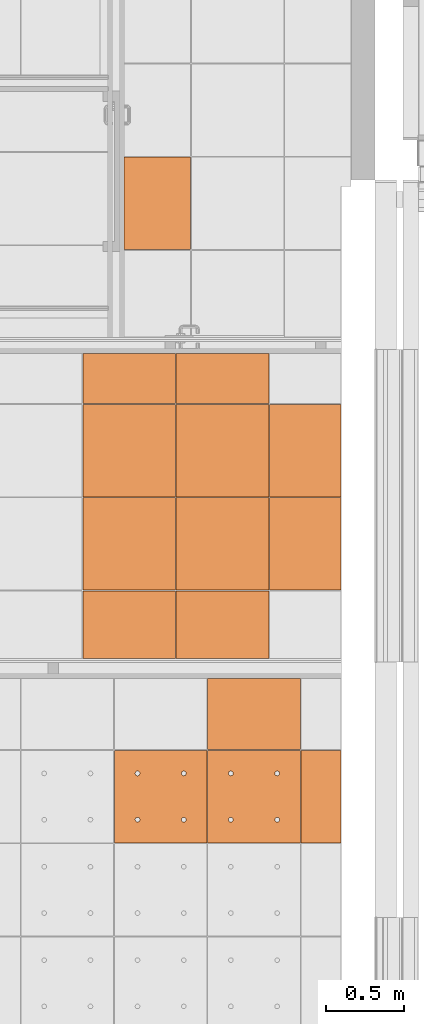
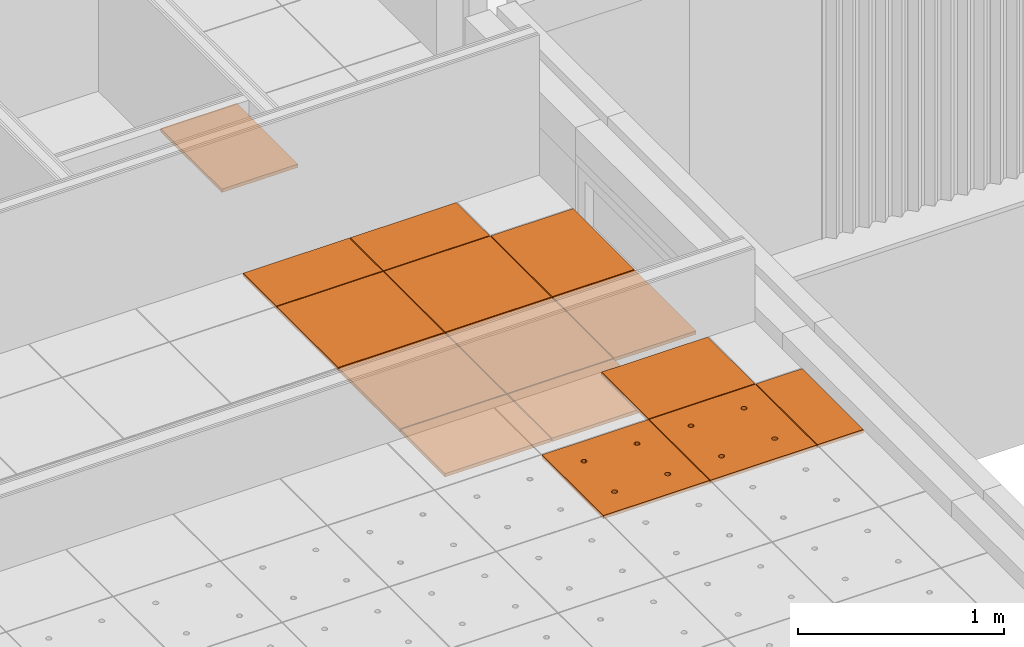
# One storey, part 295 of 338: 15 proxies, 3 elements without a shape of their own.
"""IFC2X3 building model written with IfcOpenShell, lengths in millimetres."""

from ifc_helpers import new_model, entity, si_unit, converted_unit, derived_unit, money_unit, direction, frame, origin_with_axes, place, context, subcontext, project, spatial, faceted_brep, source, transform, mapped, material, type_object, type_shapes, element, aggregate, save


model = new_model("IFC2X3")

# Units and contexts
model_context = context("Model", 3, precision=0.01, world=origin_with_axes(), true_north=direction((0.0, 1.0)))
plan_context = context("Plan", 3, precision=0.01, world=origin_with_axes(), true_north=direction((0.0, 1.0)))
body_context = subcontext(model_context, "Body", "Model", "MODEL_VIEW")
ifc_project = project(units=[si_unit("LENGTHUNIT", "METRE", prefix="MILLI"), si_unit("AREAUNIT", "SQUARE_METRE"), si_unit("VOLUMEUNIT", "CUBIC_METRE"), converted_unit("PLANEANGLEUNIT", "DEGREE", entity("IfcPlaneAngleMeasure", 0.0174532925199), si_unit("PLANEANGLEUNIT", "RADIAN"), dimensions=[0, 0, 0, 0, 0, 0, 0]), money_unit("EUR"), converted_unit("TIMEUNIT", "Year", entity("IfcTimeMeasure", 31556926.0), si_unit("TIMEUNIT", "SECOND"), dimensions=[0, 0, 1, 0, 0, 0, 0]), si_unit("MASSUNIT", "GRAM", prefix="KILO"), si_unit("THERMODYNAMICTEMPERATUREUNIT", "DEGREE_CELSIUS"), si_unit("LUMINOUSINTENSITYUNIT", "LUMEN"), si_unit("ENERGYUNIT", "JOULE", prefix="MEGA"), derived_unit("THERMALCONDUCTANCEUNIT", [(si_unit("POWERUNIT", "WATT"), 1), (si_unit("LENGTHUNIT", "METRE"), -1), (si_unit("THERMODYNAMICTEMPERATUREUNIT", "KELVIN"), -1)]), derived_unit("SPECIFICHEATCAPACITYUNIT", [(si_unit("ENERGYUNIT", "JOULE"), 1), (si_unit("MASSUNIT", "GRAM", prefix="KILO"), -1), (si_unit("THERMODYNAMICTEMPERATUREUNIT", "KELVIN"), -1)]), derived_unit("MASSDENSITYUNIT", [(si_unit("MASSUNIT", "GRAM", prefix="KILO"), 1), (si_unit("VOLUMEUNIT", "CUBIC_METRE"), -1)])], contexts=[model_context, plan_context])

# Site, building, storey
site_placement = place(None, origin_with_axes())
site = spatial("IfcSite", under=ifc_project, at=site_placement, Name="Fortuinstraat Woensdrecht", CompositionType="ELEMENT")
building_placement = place(site_placement, origin_with_axes())
building = spatial("IfcBuilding", under=site, at=building_placement, Name="IKC Fortuna", CompositionType="ELEMENT")
storey_placement = place(building_placement, origin_with_axes())
storey = spatial("IfcBuildingStorey", under=building, at=storey_placement, Name="00 begane grond", CompositionType="ELEMENT", Elevation=0.0)

# Covering, proxies
covering_type = type_object("IfcCoveringType", Name="Curtain Wall Type", PredefinedType="CEILING")
covering_1_placement = place(storey_placement, frame((30854.3216019, 19636.030534, 2810.0), z_axis=(0.0, 0.0, 1.0), x_axis=(1.0, 0.0, 0.0)))
covering_1 = element("IfcCovering", 1, at=covering_1_placement, inside=storey, type_object=covering_type, Name="45_Plafondafwerking_P02 gec", PredefinedType="CEILING")
ifc_material = material(Name="Gipsplaat")
building_element_proxy_type_1 = type_object("IfcBuildingElementProxyType", Name="Distinct Panel 600 x 600 x 20", PredefinedType="NOTDEFINED")
shared_shape_1 = source(origin_with_axes(), body_context, "Body", "Brep", [
    faceted_brep([(-2.49999999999, 2.5, -10.0), (-2.49999999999, 2.5, 10.0), (-597.5, 2.49999999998, 10.0), (-597.5, 2.49999999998, -10.0), (-2.50000000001, 597.5, -10.0), (-2.50000000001, 597.5, 10.0), (-597.5, 597.5, 10.0), (-597.5, 597.5, -10.0)], [[[0, 1, 2, 3]], [[4, 5, 1, 0]], [[1, 5, 6, 2]], [[3, 2, 6, 7]], [[0, 3, 7, 4]], [[7, 6, 5, 4]]]),
])
proxy_1_placement = place(covering_1_placement, frame((3000.0, -1063.7661008, 1.38111744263e-10), z_axis=(0.0, 0.0, 1.0), x_axis=(1.0, 0.0, 0.0)))
proxy_1 = element("IfcBuildingElementProxy", 2, at=proxy_1_placement, type_object=building_element_proxy_type_1, material=ifc_material, Name="__Panel-D", context=body_context, shape_type="MappedRepresentation", body=[
    mapped(shared_shape_1, transform((-300.0, 300.0, 0.0), x_axis=(-1.0, 0.0, 0.0), y_axis=(0.0, -1.0, 0.0), z_axis=(0.0, 0.0, 1.0))),
])
proxy_2_placement = place(covering_1_placement, frame((2400.0, -463.766100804, 1.1857181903e-10), z_axis=(0.0, 0.0, 1.0), x_axis=(1.0, 0.0, 0.0)))
proxy_2 = element("IfcBuildingElementProxy", 3, at=proxy_2_placement, type_object=building_element_proxy_type_1, material=ifc_material, Name="__Panel-D", context=body_context, shape_type="MappedRepresentation", body=[
    mapped(shared_shape_1, transform((-300.0, 300.0, 0.0), x_axis=(-1.0, 0.0, 0.0), y_axis=(0.0, -1.0, 0.0), z_axis=(0.0, 0.0, 1.0))),
])
proxy_3_placement = place(covering_1_placement, frame((3000.0, -463.766100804, 1.38111744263e-10), z_axis=(0.0, 0.0, 1.0), x_axis=(1.0, 0.0, 0.0)))
proxy_3 = element("IfcBuildingElementProxy", 4, at=proxy_3_placement, type_object=building_element_proxy_type_1, material=ifc_material, Name="__Panel-D", context=body_context, shape_type="MappedRepresentation", body=[
    mapped(shared_shape_1, transform((-300.0, 300.0, 0.0), x_axis=(-1.0, 0.0, 0.0), y_axis=(0.0, -1.0, 0.0), z_axis=(0.0, 0.0, 1.0))),
])
shared_shape_2 = source(origin_with_axes(), body_context, "Body", "Brep", [
    faceted_brep([(-2.5000069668, 2.4999963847, -10.0), (-2.5000069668, 2.4999963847, 10.0), (-597.499995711, 2.50000275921, 10.0), (-597.499995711, 2.50000275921, -10.0), (-2.50000214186, 597.499967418, -10.0), (-2.50000214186, 597.499967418, 10.0), (-597.499990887, 597.499973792, 10.0), (-597.499990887, 597.499973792, -10.0)], [[[0, 1, 2, 3]], [[4, 5, 1, 0]], [[1, 5, 6, 2]], [[3, 2, 6, 7]], [[0, 3, 7, 4]], [[7, 6, 5, 4]]]),
])
type_shapes(building_element_proxy_type_1, [shared_shape_1, shared_shape_2])
proxy_4_placement = place(covering_1_placement, frame((2400.0, -1063.7661008, 1.1857181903e-10), z_axis=(0.0, 0.0, 1.0), x_axis=(1.0, 0.0, 0.0)))
proxy_4 = element("IfcBuildingElementProxy", 5, at=proxy_4_placement, type_object=building_element_proxy_type_1, material=ifc_material, Name="__Panel-D", context=body_context, shape_type="MappedRepresentation", body=[
    mapped(shared_shape_2, transform((-300.0, 300.0, 0.0), x_axis=(-1.0, 0.0, 0.0), y_axis=(0.0, -1.0, 0.0), z_axis=(0.0, 0.0, 1.0))),
])

covering_2_placement = place(storey_placement, frame((31656.9226967, 15748.5304598, 3210.0), z_axis=(0.0, 0.0, 1.0), x_axis=(1.0, 0.0, 0.0)))
covering_2 = element("IfcCovering", 6, at=covering_2_placement, inside=storey, type_object=covering_type, Name="45_Plafondafwerking_P01", PredefinedType="CEILING")
building_element_proxy_type_2 = type_object("IfcBuildingElementProxyType", Name="Main Panel 600 x 600 x 20", PredefinedType="NOTDEFINED")
shared_shape_3 = source(origin_with_axes(), body_context, "Body", "Brep", [
    faceted_brep([(2.49999999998, 2.49999999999, -10.0), (300.0, 2.49999999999, -10.0), (300.0, 2.49999999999, 10.0), (2.49999999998, 2.49999999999, 10.0), (2.49999999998, 300.0, -10.0), (2.49999999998, 597.5, -10.0), (300.0, 597.5, -10.0), (597.5, 597.5, -10.0), (597.5, 300.0, -10.0), (597.5, 2.49999999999, -10.0), (166.25, 450.06232995, -10.0), (165.79423259, 452.64711538, -10.0), (164.896546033, 455.11348892, -10.0), (163.58421608, 457.38651108, -10.0), (161.897117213, 459.39711721, -10.0), (159.886511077, 461.08421608, -10.0), (157.613488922, 462.39654603, -10.0), (155.147115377, 463.29423259, -10.0), (152.562329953, 463.75, -10.0), (149.937670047, 463.75, -10.0), (147.352884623, 463.29423259, -10.0), (144.886511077, 462.39654603, -10.0), (142.613488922, 461.08421608, -10.0), (140.602882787, 459.39711721, -10.0), (138.91578392, 457.38651108, -10.0), (137.603453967, 455.11348892, -10.0), (136.705767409, 452.64711538, -10.0), (136.25, 450.06232995, -10.0), (136.25, 448.75, -10.0), (136.25, 447.43767005, -10.0), (136.705767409, 444.85288462, -10.0), (137.603453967, 442.38651108, -10.0), (138.91578392, 440.11348892, -10.0), (140.602882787, 438.10288279, -10.0), (142.613488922, 436.41578392, -10.0), (144.886511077, 435.10345397, -10.0), (147.352884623, 434.20576741, -10.0), (149.937670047, 433.75, -10.0), (152.562329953, 433.75, -10.0), (155.147115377, 434.20576741, -10.0), (157.613488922, 435.10345397, -10.0), (159.886511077, 436.41578392, -10.0), (161.897117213, 438.10288279, -10.0), (163.58421608, 440.11348892, -10.0), (164.896546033, 442.38651108, -10.0), (165.79423259, 444.85288462, -10.0), (166.25, 447.43767005, -10.0), (463.75, 450.06232995, -10.0), (463.29423259, 452.64711538, -10.0), (462.396546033, 455.11348892, -10.0), (461.08421608, 457.38651108, -10.0), (459.397117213, 459.39711721, -10.0), (457.386511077, 461.08421608, -10.0), (455.113488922, 462.39654603, -10.0), (452.647115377, 463.29423259, -10.0), (450.062329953, 463.75, -10.0), (447.437670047, 463.75, -10.0), (444.852884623, 463.29423259, -10.0), (442.386511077, 462.39654603, -10.0), (440.113488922, 461.08421608, -10.0), (438.102882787, 459.39711721, -10.0), (436.41578392, 457.38651108, -10.0), (435.103453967, 455.11348892, -10.0), (434.205767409, 452.64711538, -10.0), (433.75, 450.06232995, -10.0), (433.75, 448.75, -10.0), (433.75, 447.43767005, -10.0), (434.205767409, 444.85288462, -10.0), (435.103453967, 442.38651108, -10.0), (436.41578392, 440.11348892, -10.0), (438.102882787, 438.10288279, -10.0), (440.113488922, 436.41578392, -10.0), (442.386511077, 435.10345397, -10.0), (444.852884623, 434.20576741, -10.0), (447.437670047, 433.75, -10.0), (450.062329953, 433.75, -10.0), (452.647115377, 434.20576741, -10.0), (455.113488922, 435.10345397, -10.0), (457.386511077, 436.41578392, -10.0), (459.397117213, 438.10288279, -10.0), (461.08421608, 440.11348892, -10.0), (462.396546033, 442.38651108, -10.0), (463.29423259, 444.85288462, -10.0), (463.75, 447.43767005, -10.0), (463.75, 152.56232995, -10.0), (463.29423259, 155.14711538, -10.0), (462.396546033, 157.61348892, -10.0), (461.08421608, 159.88651108, -10.0), (459.397117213, 161.89711721, -10.0), (457.386511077, 163.58421608, -10.0), (455.113488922, 164.89654603, -10.0), (452.647115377, 165.79423259, -10.0), (450.062329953, 166.25, -10.0), (447.437670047, 166.25, -10.0), (444.852884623, 165.79423259, -10.0), (442.386511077, 164.89654603, -10.0), (440.113488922, 163.58421608, -10.0), (438.102882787, 161.89711721, -10.0), (436.41578392, 159.88651108, -10.0), (435.103453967, 157.61348892, -10.0), (434.205767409, 155.14711538, -10.0), (433.75, 152.56232995, -10.0), (433.75, 151.25, -10.0), (433.75, 149.93767005, -10.0), (434.205767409, 147.35288462, -10.0), (435.103453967, 144.88651108, -10.0), (436.41578392, 142.61348892, -10.0), (438.102882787, 140.60288279, -10.0), (440.113488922, 138.91578392, -10.0), (442.386511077, 137.60345397, -10.0), (444.852884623, 136.70576741, -10.0), (447.437670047, 136.25, -10.0), (450.062329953, 136.25, -10.0), (452.647115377, 136.70576741, -10.0), (455.113488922, 137.60345397, -10.0), (457.386511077, 138.91578392, -10.0), (459.397117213, 140.60288279, -10.0), (461.08421608, 142.61348892, -10.0), (462.396546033, 144.88651108, -10.0), (463.29423259, 147.35288462, -10.0), (463.75, 149.93767005, -10.0), (166.25, 152.56232995, -10.0), (165.79423259, 155.14711538, -10.0), (164.896546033, 157.61348892, -10.0), (163.58421608, 159.88651108, -10.0), (161.897117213, 161.89711721, -10.0), (159.886511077, 163.58421608, -10.0), (157.613488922, 164.89654603, -10.0), (155.147115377, 165.79423259, -10.0), (152.562329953, 166.25, -10.0), (149.937670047, 166.25, -10.0), (147.352884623, 165.79423259, -10.0), (144.886511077, 164.89654603, -10.0), (142.613488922, 163.58421608, -10.0), (140.602882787, 161.89711721, -10.0), (138.91578392, 159.88651108, -10.0), (137.603453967, 157.61348892, -10.0), (136.705767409, 155.14711538, -10.0), (136.25, 152.56232995, -10.0), (136.25, 151.25, -10.0), (136.25, 149.93767005, -10.0), (136.705767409, 147.35288462, -10.0), (137.603453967, 144.88651108, -10.0), (138.91578392, 142.61348892, -10.0), (140.602882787, 140.60288279, -10.0), (142.613488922, 138.91578392, -10.0), (144.886511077, 137.60345397, -10.0), (147.352884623, 136.70576741, -10.0), (149.937670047, 136.25, -10.0), (152.562329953, 136.25, -10.0), (155.147115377, 136.70576741, -10.0), (157.613488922, 137.60345397, -10.0), (159.886511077, 138.91578392, -10.0), (161.897117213, 140.60288279, -10.0), (163.58421608, 142.61348892, -10.0), (164.896546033, 144.88651108, -10.0), (165.79423259, 147.35288462, -10.0), (166.25, 149.93767005, -10.0), (597.5, 2.49999999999, 10.0), (597.5, 300.0, 10.0), (597.5, 597.5, 10.0), (300.0, 597.5, 10.0), (2.49999999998, 597.5, 10.0), (2.49999999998, 300.0, 10.0), (166.25, 450.06232995, 10.0), (166.25, 447.43767005, 10.0), (165.79423259, 444.85288462, 10.0), (164.896546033, 442.38651108, 10.0), (163.58421608, 440.11348892, 10.0), (161.897117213, 438.10288279, 10.0), (159.886511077, 436.41578392, 10.0), (157.613488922, 435.10345397, 10.0), (155.147115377, 434.20576741, 10.0), (152.562329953, 433.75, 10.0), (149.937670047, 433.75, 10.0), (147.352884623, 434.20576741, 10.0), (144.886511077, 435.10345397, 10.0), (142.613488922, 436.41578392, 10.0), (140.602882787, 438.10288279, 10.0), (138.91578392, 440.11348892, 10.0), (137.603453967, 442.38651108, 10.0), (136.705767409, 444.85288462, 10.0), (136.25, 447.43767005, 10.0), (136.25, 448.75, 10.0), (136.25, 450.06232995, 10.0), (136.705767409, 452.64711538, 10.0), (137.603453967, 455.11348892, 10.0), (138.91578392, 457.38651108, 10.0), (140.602882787, 459.39711721, 10.0), (142.613488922, 461.08421608, 10.0), (144.886511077, 462.39654603, 10.0), (147.352884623, 463.29423259, 10.0), (149.937670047, 463.75, 10.0), (152.562329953, 463.75, 10.0), (155.147115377, 463.29423259, 10.0), (157.613488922, 462.39654603, 10.0), (159.886511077, 461.08421608, 10.0), (161.897117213, 459.39711721, 10.0), (163.58421608, 457.38651108, 10.0), (164.896546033, 455.11348892, 10.0), (165.79423259, 452.64711538, 10.0), (463.75, 450.06232995, 10.0), (463.75, 447.43767005, 10.0), (463.29423259, 444.85288462, 10.0), (462.396546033, 442.38651108, 10.0), (461.08421608, 440.11348892, 10.0), (459.397117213, 438.10288279, 10.0), (457.386511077, 436.41578392, 10.0), (455.113488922, 435.10345397, 10.0), (452.647115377, 434.20576741, 10.0), (450.062329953, 433.75, 10.0), (447.437670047, 433.75, 10.0), (444.852884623, 434.20576741, 10.0), (442.386511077, 435.10345397, 10.0), (440.113488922, 436.41578392, 10.0), (438.102882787, 438.10288279, 10.0), (436.41578392, 440.11348892, 10.0), (435.103453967, 442.38651108, 10.0), (434.205767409, 444.85288462, 10.0), (433.75, 447.43767005, 10.0), (433.75, 448.75, 10.0), (433.75, 450.06232995, 10.0), (434.205767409, 452.64711538, 10.0), (435.103453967, 455.11348892, 10.0), (436.41578392, 457.38651108, 10.0), (438.102882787, 459.39711721, 10.0), (440.113488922, 461.08421608, 10.0), (442.386511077, 462.39654603, 10.0), (444.852884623, 463.29423259, 10.0), (447.437670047, 463.75, 10.0), (450.062329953, 463.75, 10.0), (452.647115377, 463.29423259, 10.0), (455.113488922, 462.39654603, 10.0), (457.386511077, 461.08421608, 10.0), (459.397117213, 459.39711721, 10.0), (461.08421608, 457.38651108, 10.0), (462.396546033, 455.11348892, 10.0), (463.29423259, 452.64711538, 10.0), (463.75, 152.56232995, 10.0), (463.75, 149.93767005, 10.0), (463.29423259, 147.35288462, 10.0), (462.396546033, 144.88651108, 10.0), (461.08421608, 142.61348892, 10.0), (459.397117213, 140.60288279, 10.0), (457.386511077, 138.91578392, 10.0), (455.113488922, 137.60345397, 10.0), (452.647115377, 136.70576741, 10.0), (450.062329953, 136.25, 10.0), (447.437670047, 136.25, 10.0), (444.852884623, 136.70576741, 10.0), (442.386511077, 137.60345397, 10.0), (440.113488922, 138.91578392, 10.0), (438.102882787, 140.60288279, 10.0), (436.41578392, 142.61348892, 10.0), (435.103453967, 144.88651108, 10.0), (434.205767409, 147.35288462, 10.0), (433.75, 149.93767005, 10.0), (433.75, 151.25, 10.0), (433.75, 152.56232995, 10.0), (434.205767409, 155.14711538, 10.0), (435.103453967, 157.61348892, 10.0), (436.41578392, 159.88651108, 10.0), (438.102882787, 161.89711721, 10.0), (440.113488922, 163.58421608, 10.0), (442.386511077, 164.89654603, 10.0), (444.852884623, 165.79423259, 10.0), (447.437670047, 166.25, 10.0), (450.062329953, 166.25, 10.0), (452.647115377, 165.79423259, 10.0), (455.113488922, 164.89654603, 10.0), (457.386511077, 163.58421608, 10.0), (459.397117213, 161.89711721, 10.0), (461.08421608, 159.88651108, 10.0), (462.396546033, 157.61348892, 10.0), (463.29423259, 155.14711538, 10.0), (166.25, 152.56232995, 10.0), (166.25, 149.93767005, 10.0), (165.79423259, 147.35288462, 10.0), (164.896546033, 144.88651108, 10.0), (163.58421608, 142.61348892, 10.0), (161.897117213, 140.60288279, 10.0), (159.886511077, 138.91578392, 10.0), (157.613488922, 137.60345397, 10.0), (155.147115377, 136.70576741, 10.0), (152.562329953, 136.25, 10.0), (149.937670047, 136.25, 10.0), (147.352884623, 136.70576741, 10.0), (144.886511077, 137.60345397, 10.0), (142.613488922, 138.91578392, 10.0), (140.602882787, 140.60288279, 10.0), (138.91578392, 142.61348892, 10.0), (137.603453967, 144.88651108, 10.0), (136.705767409, 147.35288462, 10.0), (136.25, 149.93767005, 10.0), (136.25, 151.25, 10.0), (136.25, 152.56232995, 10.0), (136.705767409, 155.14711538, 10.0), (137.603453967, 157.61348892, 10.0), (138.91578392, 159.88651108, 10.0), (140.602882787, 161.89711721, 10.0), (142.613488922, 163.58421608, 10.0), (144.886511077, 164.89654603, 10.0), (147.352884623, 165.79423259, 10.0), (149.937670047, 166.25, 10.0), (152.562329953, 166.25, 10.0), (155.147115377, 165.79423259, 10.0), (157.613488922, 164.89654603, 10.0), (159.886511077, 163.58421608, 10.0), (161.897117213, 161.89711721, 10.0), (163.58421608, 159.88651108, 10.0), (164.896546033, 157.61348892, 10.0), (165.79423259, 155.14711538, 10.0)], [[[0, 1, 2, 3]], [[0, 4, 5, 6, 7, 8, 9, 1], [10, 11, 12, 13, 14, 15, 16, 17, 18, 19, 20, 21, 22, 23, 24, 25, 26, 27, 28, 29, 30, 31, 32, 33, 34, 35, 36, 37, 38, 39, 40, 41, 42, 43, 44, 45, 46], [47, 48, 49, 50, 51, 52, 53, 54, 55, 56, 57, 58, 59, 60, 61, 62, 63, 64, 65, 66, 67, 68, 69, 70, 71, 72, 73, 74, 75, 76, 77, 78, 79, 80, 81, 82, 83], [84, 85, 86, 87, 88, 89, 90, 91, 92, 93, 94, 95, 96, 97, 98, 99, 100, 101, 102, 103, 104, 105, 106, 107, 108, 109, 110, 111, 112, 113, 114, 115, 116, 117, 118, 119, 120], [121, 122, 123, 124, 125, 126, 127, 128, 129, 130, 131, 132, 133, 134, 135, 136, 137, 138, 139, 140, 141, 142, 143, 144, 145, 146, 147, 148, 149, 150, 151, 152, 153, 154, 155, 156, 157]], [[1, 9, 158, 2]], [[3, 2, 158, 159, 160, 161, 162, 163], [164, 165, 166, 167, 168, 169, 170, 171, 172, 173, 174, 175, 176, 177, 178, 179, 180, 181, 182, 183, 184, 185, 186, 187, 188, 189, 190, 191, 192, 193, 194, 195, 196, 197, 198, 199, 200], [201, 202, 203, 204, 205, 206, 207, 208, 209, 210, 211, 212, 213, 214, 215, 216, 217, 218, 219, 220, 221, 222, 223, 224, 225, 226, 227, 228, 229, 230, 231, 232, 233, 234, 235, 236, 237], [238, 239, 240, 241, 242, 243, 244, 245, 246, 247, 248, 249, 250, 251, 252, 253, 254, 255, 256, 257, 258, 259, 260, 261, 262, 263, 264, 265, 266, 267, 268, 269, 270, 271, 272, 273, 274], [275, 276, 277, 278, 279, 280, 281, 282, 283, 284, 285, 286, 287, 288, 289, 290, 291, 292, 293, 294, 295, 296, 297, 298, 299, 300, 301, 302, 303, 304, 305, 306, 307, 308, 309, 310, 311]], [[4, 0, 3, 163]], [[5, 4, 163, 162]], [[6, 5, 162, 161]], [[7, 6, 161, 160]], [[8, 7, 160, 159]], [[9, 8, 159, 158]], [[11, 10, 164, 200]], [[12, 11, 200, 199]], [[13, 12, 199, 198]], [[14, 13, 198, 197]], [[15, 14, 197, 196]], [[16, 15, 196, 195]], [[17, 16, 195, 194]], [[18, 17, 194, 193]], [[19, 18, 193, 192]], [[20, 19, 192, 191]], [[21, 20, 191, 190]], [[22, 21, 190, 189]], [[23, 22, 189, 188]], [[24, 23, 188, 187]], [[25, 24, 187, 186]], [[26, 25, 186, 185]], [[27, 26, 185, 184]], [[28, 27, 184, 183]], [[29, 28, 183, 182]], [[30, 29, 182, 181]], [[31, 30, 181, 180]], [[32, 31, 180, 179]], [[33, 32, 179, 178]], [[34, 33, 178, 177]], [[35, 34, 177, 176]], [[36, 35, 176, 175]], [[37, 36, 175, 174]], [[38, 37, 174, 173]], [[39, 38, 173, 172]], [[40, 39, 172, 171]], [[41, 40, 171, 170]], [[42, 41, 170, 169]], [[43, 42, 169, 168]], [[44, 43, 168, 167]], [[45, 44, 167, 166]], [[46, 45, 166, 165]], [[10, 46, 165, 164]], [[48, 47, 201, 237]], [[49, 48, 237, 236]], [[50, 49, 236, 235]], [[51, 50, 235, 234]], [[52, 51, 234, 233]], [[53, 52, 233, 232]], [[54, 53, 232, 231]], [[55, 54, 231, 230]], [[56, 55, 230, 229]], [[57, 56, 229, 228]], [[58, 57, 228, 227]], [[59, 58, 227, 226]], [[60, 59, 226, 225]], [[61, 60, 225, 224]], [[62, 61, 224, 223]], [[63, 62, 223, 222]], [[64, 63, 222, 221]], [[65, 64, 221, 220]], [[66, 65, 220, 219]], [[67, 66, 219, 218]], [[68, 67, 218, 217]], [[69, 68, 217, 216]], [[70, 69, 216, 215]], [[71, 70, 215, 214]], [[72, 71, 214, 213]], [[73, 72, 213, 212]], [[74, 73, 212, 211]], [[75, 74, 211, 210]], [[76, 75, 210, 209]], [[77, 76, 209, 208]], [[78, 77, 208, 207]], [[79, 78, 207, 206]], [[80, 79, 206, 205]], [[81, 80, 205, 204]], [[82, 81, 204, 203]], [[83, 82, 203, 202]], [[47, 83, 202, 201]], [[85, 84, 238, 274]], [[86, 85, 274, 273]], [[87, 86, 273, 272]], [[88, 87, 272, 271]], [[89, 88, 271, 270]], [[90, 89, 270, 269]], [[91, 90, 269, 268]], [[92, 91, 268, 267]], [[93, 92, 267, 266]], [[94, 93, 266, 265]], [[95, 94, 265, 264]], [[96, 95, 264, 263]], [[97, 96, 263, 262]], [[98, 97, 262, 261]], [[99, 98, 261, 260]], [[100, 99, 260, 259]], [[101, 100, 259, 258]], [[102, 101, 258, 257]], [[103, 102, 257, 256]], [[104, 103, 256, 255]], [[105, 104, 255, 254]], [[106, 105, 254, 253]], [[107, 106, 253, 252]], [[108, 107, 252, 251]], [[109, 108, 251, 250]], [[110, 109, 250, 249]], [[111, 110, 249, 248]], [[112, 111, 248, 247]], [[113, 112, 247, 246]], [[114, 113, 246, 245]], [[115, 114, 245, 244]], [[116, 115, 244, 243]], [[117, 116, 243, 242]], [[118, 117, 242, 241]], [[119, 118, 241, 240]], [[120, 119, 240, 239]], [[84, 120, 239, 238]], [[122, 121, 275, 311]], [[123, 122, 311, 310]], [[124, 123, 310, 309]], [[125, 124, 309, 308]], [[126, 125, 308, 307]], [[127, 126, 307, 306]], [[128, 127, 306, 305]], [[129, 128, 305, 304]], [[130, 129, 304, 303]], [[131, 130, 303, 302]], [[132, 131, 302, 301]], [[133, 132, 301, 300]], [[134, 133, 300, 299]], [[135, 134, 299, 298]], [[136, 135, 298, 297]], [[137, 136, 297, 296]], [[138, 137, 296, 295]], [[139, 138, 295, 294]], [[140, 139, 294, 293]], [[141, 140, 293, 292]], [[142, 141, 292, 291]], [[143, 142, 291, 290]], [[144, 143, 290, 289]], [[145, 144, 289, 288]], [[146, 145, 288, 287]], [[147, 146, 287, 286]], [[148, 147, 286, 285]], [[149, 148, 285, 284]], [[150, 149, 284, 283]], [[151, 150, 283, 282]], [[152, 151, 282, 281]], [[153, 152, 281, 280]], [[154, 153, 280, 279]], [[155, 154, 279, 278]], [[156, 155, 278, 277]], [[157, 156, 277, 276]], [[121, 157, 276, 275]]]),
])
type_shapes(building_element_proxy_type_2, [shared_shape_3])
proxy_5_placement = place(covering_2_placement, frame((2400.0, 1200.0, 0.0), z_axis=(0.0, 0.0, 1.0), x_axis=(1.0, 0.0, 0.0)))
proxy_5 = element("IfcBuildingElementProxy", 7, at=proxy_5_placement, type_object=building_element_proxy_type_2, material=ifc_material, Name="__600x606 Rockfon Krios", context=body_context, shape_type="MappedRepresentation", body=[
    mapped(shared_shape_3, transform((300.0, 300.0, 0.0), x_axis=(-1.0, 0.0, 0.0), y_axis=(0.0, -1.0, 0.0), z_axis=(0.0, 0.0, 1.0))),
])
proxy_6_placement = place(covering_2_placement, frame((1800.0, 1200.0, 0.0), z_axis=(0.0, 0.0, 1.0), x_axis=(1.0, 0.0, 0.0)))
proxy_6 = element("IfcBuildingElementProxy", 8, at=proxy_6_placement, type_object=building_element_proxy_type_2, material=ifc_material, Name="__600x610 Rockfon Krios", context=body_context, shape_type="MappedRepresentation", body=[
    mapped(shared_shape_3, transform((300.0, 300.0, 0.0), x_axis=(-1.0, 0.0, 0.0), y_axis=(0.0, -1.0, 0.0), z_axis=(0.0, 0.0, 1.0))),
])

# Proxy
building_element_proxy_type_3 = type_object("IfcBuildingElementProxyType", Name="Distinct Panel 600 x 328 x 20", PredefinedType="NOTDEFINED")
shared_shape_4 = source(origin_with_axes(), body_context, "Body", "Brep", [
    faceted_brep([(-2.49999999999, 274.967831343, -10.0), (-2.49999999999, 274.967831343, 10.0), (-597.5, 274.967831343, 10.0), (-597.5, 274.967831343, -10.0), (-2.5, 597.5, -10.0), (-2.5, 597.5, 10.0), (-597.5, 597.5, 10.0), (-597.5, 597.5, -10.0)], [[[0, 1, 2, 3]], [[4, 5, 1, 0]], [[1, 5, 6, 2]], [[3, 2, 6, 7]], [[0, 3, 7, 4]], [[7, 6, 5, 4]]]),
])
proxy_7_placement = place(covering_1_placement, frame((3000.0, 2.02387084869e-06, 1.38111744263e-10), z_axis=(0.0, 0.0, 1.0), x_axis=(1.0, 0.0, 0.0)))
proxy_7 = element("IfcBuildingElementProxy", 9, at=proxy_7_placement, type_object=building_element_proxy_type_3, material=ifc_material, Name="__Panel-D", context=body_context, shape_type="MappedRepresentation", body=[
    mapped(shared_shape_4, transform((-300.0, 436.233897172, 0.0), x_axis=(-1.0, 0.0, 0.0), y_axis=(0.0, -1.0, 0.0), z_axis=(0.0, 0.0, 1.0))),
])

building_element_proxy_type_4 = type_object("IfcBuildingElementProxyType", Name="Distinct Panel 600 x 437 x 20", PredefinedType="NOTDEFINED")
shared_shape_5 = source(origin_with_axes(), body_context, "Body", "Brep", [
    faceted_brep([(-2.49999999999, 2.5000033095, -10.0), (-2.49999999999, 2.5000033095, 10.0), (-597.5, 2.50000330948, 10.0), (-597.5, 2.50000330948, -10.0), (-2.50000000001, 434.967816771, -10.0), (-2.50000000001, 434.967816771, 10.0), (-597.5, 434.967798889, 10.0), (-597.5, 434.967798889, -10.0)], [[[0, 1, 2, 3]], [[4, 5, 1, 0]], [[1, 5, 6, 2]], [[3, 2, 6, 7]], [[0, 3, 7, 4]], [[7, 6, 5, 4]]]),
])
type_shapes(building_element_proxy_type_4, [shared_shape_5])
proxy_8_placement = place(covering_1_placement, frame((2400.0, -1582.49999421, 1.1857181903e-10), z_axis=(0.0, 0.0, 1.0), x_axis=(1.0, 0.0, 0.0)))
proxy_8 = element("IfcBuildingElementProxy", 10, at=proxy_8_placement, type_object=building_element_proxy_type_4, material=ifc_material, Name="__Panel-D", context=body_context, shape_type="MappedRepresentation", body=[
    mapped(shared_shape_5, transform((-300.0, 218.733893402, 0.0), x_axis=(-1.0, 0.0, 0.0), y_axis=(0.0, -1.0, 0.0), z_axis=(0.0, 0.0, 1.0))),
])

proxy_9_placement = place(covering_1_placement, frame((3000.0, -1582.49999421, 1.38111744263e-10), z_axis=(0.0, 0.0, 1.0), x_axis=(1.0, 0.0, 0.0)))
proxy_9 = element("IfcBuildingElementProxy", 11, at=proxy_9_placement, type_object=building_element_proxy_type_4, material=ifc_material, Name="__Panel-D", context=body_context, shape_type="MappedRepresentation", body=[
    mapped(shared_shape_5, transform((-300.0, 218.733893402, 0.0), x_axis=(-1.0, 0.0, 0.0), y_axis=(0.0, -1.0, 0.0), z_axis=(0.0, 0.0, 1.0))),
])

shared_shape_6 = source(origin_with_axes(), body_context, "Body", "Brep", [
    faceted_brep([(-2.49999999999, 274.967831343, -10.0), (-2.49999999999, 274.967831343, 10.0), (-597.5, 274.96780452, 10.0), (-597.5, 274.96780452, -10.0), (-2.50000000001, 597.5, -10.0), (-2.50000000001, 597.5, 10.0), (-597.5, 597.5, 10.0), (-597.5, 597.5, -10.0)], [[[0, 1, 2, 3]], [[4, 5, 1, 0]], [[1, 5, 6, 2]], [[3, 2, 6, 7]], [[0, 3, 7, 4]], [[7, 6, 5, 4]]]),
])
type_shapes(building_element_proxy_type_3, [shared_shape_4, shared_shape_6])
proxy_10_placement = place(covering_1_placement, frame((2400.0, 0.0, 1.1857181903e-10), z_axis=(0.0, 0.0, 1.0), x_axis=(1.0, 0.0, 0.0)))
proxy_10 = element("IfcBuildingElementProxy", 12, at=proxy_10_placement, type_object=building_element_proxy_type_3, material=ifc_material, Name="__Panel-D", context=body_context, shape_type="MappedRepresentation", body=[
    mapped(shared_shape_6, transform((-300.0, 436.233899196, 0.0), x_axis=(-1.0, 0.0, 0.0), y_axis=(0.0, -1.0, 0.0), z_axis=(0.0, 0.0, 1.0))),
])

building_element_proxy_type_5 = type_object("IfcBuildingElementProxyType", Name="Distinct Panel 465 x 600 x 20", PredefinedType="NOTDEFINED")
shared_shape_7 = source(origin_with_axes(), body_context, "Body", "Brep", [
    faceted_brep([(-2.50000404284, 2.5, -10.0), (-2.50000404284, 2.5, 10.0), (-462.605388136, 2.49999999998, 10.0), (-462.605388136, 2.49999999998, -10.0), (-2.50000404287, 597.5, -10.0), (-2.50000404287, 597.5, 10.0), (-462.605388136, 597.5, 10.0), (-462.605388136, 597.5, -10.0)], [[[0, 1, 2, 3]], [[4, 5, 1, 0]], [[1, 5, 6, 2]], [[3, 2, 6, 7]], [[0, 3, 7, 4]], [[7, 6, 5, 4]]]),
])
type_shapes(building_element_proxy_type_5, [shared_shape_7])
proxy_11_placement = place(covering_1_placement, frame((3532.55269407, -1063.7661008, 1.55875312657e-10), z_axis=(0.0, 0.0, 1.0), x_axis=(1.0, 0.0, 0.0)))
proxy_11 = element("IfcBuildingElementProxy", 13, at=proxy_11_placement, type_object=building_element_proxy_type_5, material=ifc_material, Name="__Panel-D", context=body_context, shape_type="MappedRepresentation", body=[
    mapped(shared_shape_7, transform((-232.552694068, 300.0, 0.0), x_axis=(-1.0, 0.0, 0.0), y_axis=(0.0, -1.0, 0.0), z_axis=(0.0, 0.0, 1.0))),
])

proxy_12_placement = place(covering_1_placement, frame((3532.55269407, -463.766100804, 1.55431223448e-10), z_axis=(0.0, 0.0, 1.0), x_axis=(1.0, 0.0, 0.0)))
proxy_12 = element("IfcBuildingElementProxy", 14, at=proxy_12_placement, type_object=building_element_proxy_type_5, material=ifc_material, Name="__Panel-D", context=body_context, shape_type="MappedRepresentation", body=[
    mapped(shared_shape_7, transform((-232.552694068, 300.0, 0.0), x_axis=(-1.0, 0.0, 0.0), y_axis=(0.0, -1.0, 0.0), z_axis=(0.0, 0.0, 1.0))),
])

aggregate(covering_1, [proxy_4, proxy_8, proxy_1, proxy_11, proxy_2, proxy_7, proxy_3, proxy_10, proxy_9, proxy_12])

# Covering, proxy
covering_3_placement = place(storey_placement, frame((33951.5455551, 20180.4597436, 2810.0), z_axis=(0.0, 0.0, 1.0), x_axis=(1.0, 0.0, 0.0)))
covering_3 = element("IfcCovering", 15, at=covering_3_placement, inside=storey, type_object=covering_type, Name="45_Plafondafwerking_P02", PredefinedType="CEILING")
building_element_proxy_type_6 = type_object("IfcBuildingElementProxyType", Name="Distinct Panel 432 x 600 x 20", PredefinedType="NOTDEFINED")
shared_shape_8 = source(origin_with_axes(), body_context, "Body", "Brep", [
    faceted_brep([(-170.618482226, 2.5, -10.0), (-170.618482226, 2.5, 10.0), (-597.5, 2.49999999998, 10.0), (-597.5, 2.49999999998, -10.0), (-170.618482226, 597.5, -10.0), (-170.618482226, 597.5, 10.0), (-597.5, 597.5, 10.0), (-597.5, 597.5, -10.0)], [[[0, 1, 2, 3]], [[4, 5, 1, 0]], [[1, 5, 6, 2]], [[3, 2, 6, 7]], [[0, 3, 7, 4]], [[7, 6, 5, 4]]]),
])
type_shapes(building_element_proxy_type_6, [shared_shape_8])
proxy_13_placement = place(covering_3_placement, frame((-515.940759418, 580.66312626, 0.0), z_axis=(0.0, 0.0, 1.0), x_axis=(1.0, 0.0, 0.0)))
proxy_13 = element("IfcBuildingElementProxy", 16, at=proxy_13_placement, type_object=building_element_proxy_type_6, material=ifc_material, Name="__Panel-D", context=body_context, shape_type="MappedRepresentation", body=[
    mapped(shared_shape_8, transform((-384.059240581, 300.0, 0.0), x_axis=(-1.0, 0.0, 0.0), y_axis=(0.0, -1.0, 0.0), z_axis=(0.0, 0.0, 1.0))),
])
aggregate(covering_3, [proxy_13])

# Proxy
building_element_proxy_type_7 = type_object("IfcBuildingElementProxyType", Name="600 x 461 x 20", PredefinedType="NOTDEFINED")
shared_shape_9 = source(origin_with_axes(), body_context, "Body", "Brep", [
    faceted_brep([(2.49999999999, 141.233853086, -10.0), (597.5, 141.233853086, -10.0), (597.5, 141.233853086, 10.0), (2.49999999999, 141.233853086, 10.0), (2.50000000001, 597.5, -10.0), (597.5, 597.5, -10.0), (597.5, 597.5, 10.0), (2.50000000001, 597.5, 10.0)], [[[0, 1, 2, 3]], [[0, 4, 5, 1]], [[1, 5, 6, 2]], [[3, 2, 6, 7]], [[4, 0, 3, 7]], [[5, 4, 7, 6]]]),
])
type_shapes(building_element_proxy_type_7, [shared_shape_9])
proxy_14_placement = place(covering_2_placement, frame((2400.0, 1730.63307755, 0.0), z_axis=(0.0, 0.0, 1.0), x_axis=(1.0, 0.0, 0.0)))
proxy_14 = element("IfcBuildingElementProxy", 17, at=proxy_14_placement, type_object=building_element_proxy_type_7, material=ifc_material, Name="__600x608 Rockfon Krios", context=body_context, shape_type="MappedRepresentation", body=[
    mapped(shared_shape_9, transform((300.0, 369.366938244, 0.0), x_axis=(-1.0, 0.0, 0.0), y_axis=(0.0, -1.0, 0.0), z_axis=(0.0, 0.0, 1.0))),
])

building_element_proxy_type_8 = type_object("IfcBuildingElementProxyType", Name="263 x 600 x 20", PredefinedType="NOTDEFINED")
shared_shape_10 = source(origin_with_axes(), body_context, "Body", "Brep", [
    faceted_brep([(339.99569058, 2.5, -10.0), (597.5, 2.49999999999, -10.0), (597.5, 2.49999999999, 10.0), (339.99569058, 2.5, 10.0), (339.99569058, 597.5, -10.0), (597.5, 597.5, -10.0), (597.5, 597.5, 10.0), (339.99569058, 597.5, 10.0)], [[[0, 1, 2, 3]], [[0, 4, 5, 1]], [[1, 5, 6, 2]], [[3, 2, 6, 7]], [[4, 0, 3, 7]], [[5, 4, 7, 6]]]),
])
type_shapes(building_element_proxy_type_8, [shared_shape_10])
proxy_15_placement = place(covering_2_placement, frame((2831.25215667, 1200.0, 0.0), z_axis=(0.0, 0.0, 1.0), x_axis=(1.0, 0.0, 0.0)))
proxy_15 = element("IfcBuildingElementProxy", 18, at=proxy_15_placement, type_object=building_element_proxy_type_8, material=ifc_material, Name="__600x653 Rockfon Krios", context=body_context, shape_type="MappedRepresentation", body=[
    mapped(shared_shape_10, transform((468.747843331, 300.0, 0.0), x_axis=(-1.0, 0.0, 0.0), y_axis=(0.0, -1.0, 0.0), z_axis=(0.0, 0.0, 1.0))),
])

aggregate(covering_2, [proxy_5, proxy_14, proxy_6, proxy_15])

save(model, "model.ifc")
